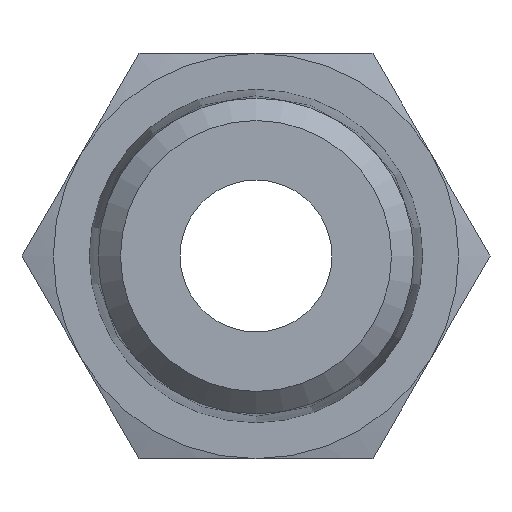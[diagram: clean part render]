
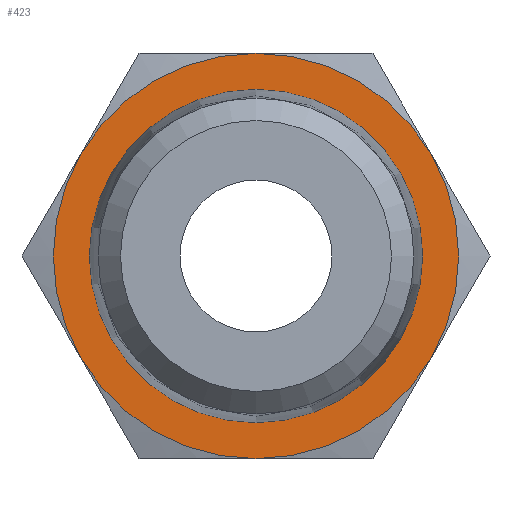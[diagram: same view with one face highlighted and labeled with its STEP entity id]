
A CAD part, left-side view. The second image highlights one B-rep face of the part: STEP entity #423.
In plain terms, the highlighted planar face has unit normal (-1, 0, 0).
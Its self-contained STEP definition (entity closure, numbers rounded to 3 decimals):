
#38=PLANE('',#485);
#47=CIRCLE('',#453,8.);
#48=CIRCLE('',#455,8.);
#49=CIRCLE('',#457,8.);
#50=CIRCLE('',#459,8.);
#51=CIRCLE('',#461,8.);
#52=CIRCLE('',#463,8.);
#63=CIRCLE('',#484,6.579);
#116=ORIENTED_EDGE('',*,*,#186,.F.);
#117=ORIENTED_EDGE('',*,*,#193,.F.);
#118=ORIENTED_EDGE('',*,*,#199,.F.);
#119=ORIENTED_EDGE('',*,*,#195,.F.);
#120=ORIENTED_EDGE('',*,*,#189,.F.);
#121=ORIENTED_EDGE('',*,*,#183,.F.);
#122=ORIENTED_EDGE('',*,*,#222,.T.);
#183=EDGE_CURVE('',#237,#239,#47,.T.);
#186=EDGE_CURVE('',#240,#237,#48,.T.);
#189=EDGE_CURVE('',#239,#243,#49,.T.);
#193=EDGE_CURVE('',#245,#240,#50,.T.);
#195=EDGE_CURVE('',#243,#247,#51,.T.);
#199=EDGE_CURVE('',#247,#245,#52,.T.);
#222=EDGE_CURVE('',#265,#265,#63,.T.);
#237=VERTEX_POINT('',#637);
#239=VERTEX_POINT('',#640);
#240=VERTEX_POINT('',#650);
#243=VERTEX_POINT('',#664);
#245=VERTEX_POINT('',#679);
#247=VERTEX_POINT('',#688);
#265=VERTEX_POINT('',#789);
#318=EDGE_LOOP('',(#116,#117,#118,#119,#120,#121));
#319=EDGE_LOOP('',(#122));
#364=FACE_BOUND('',#318,.T.);
#365=FACE_BOUND('',#319,.T.);
#423=ADVANCED_FACE('',(#364,#365),#38,.F.);
#453=AXIS2_PLACEMENT_3D('',#639,#513,#514);
#455=AXIS2_PLACEMENT_3D('',#652,#517,#518);
#457=AXIS2_PLACEMENT_3D('',#663,#521,#522);
#459=AXIS2_PLACEMENT_3D('',#680,#525,#526);
#461=AXIS2_PLACEMENT_3D('',#687,#529,#530);
#463=AXIS2_PLACEMENT_3D('',#703,#533,#534);
#484=AXIS2_PLACEMENT_3D('',#788,#575,#576);
#485=AXIS2_PLACEMENT_3D('',#790,#577,#578);
#513=DIRECTION('',(1.,0.,0.));
#514=DIRECTION('',(0.,0.,-1.));
#517=DIRECTION('',(1.,0.,0.));
#518=DIRECTION('',(0.,0.,-1.));
#521=DIRECTION('',(1.,0.,0.));
#522=DIRECTION('',(0.,0.,-1.));
#525=DIRECTION('',(1.,0.,0.));
#526=DIRECTION('',(0.,0.,-1.));
#529=DIRECTION('',(1.,0.,0.));
#530=DIRECTION('',(0.,0.,-1.));
#533=DIRECTION('',(1.,0.,0.));
#534=DIRECTION('',(0.,0.,-1.));
#575=DIRECTION('',(1.,0.,0.));
#576=DIRECTION('',(0.,0.,-1.));
#577=DIRECTION('',(1.,0.,0.));
#578=DIRECTION('',(0.,0.,-1.));
#637=CARTESIAN_POINT('',(13.912,6.928,4.));
#639=CARTESIAN_POINT('',(13.912,0.,0.));
#640=CARTESIAN_POINT('',(13.912,0.,8.));
#650=CARTESIAN_POINT('',(13.912,6.928,-4.));
#652=CARTESIAN_POINT('',(13.912,0.,0.));
#663=CARTESIAN_POINT('',(13.912,0.,0.));
#664=CARTESIAN_POINT('',(13.912,-6.928,4.));
#679=CARTESIAN_POINT('',(13.912,0.,-8.));
#680=CARTESIAN_POINT('',(13.912,0.,0.));
#687=CARTESIAN_POINT('',(13.912,0.,0.));
#688=CARTESIAN_POINT('',(13.912,-6.928,-4.));
#703=CARTESIAN_POINT('',(13.912,0.,0.));
#788=CARTESIAN_POINT('',(13.912,0.,0.));
#789=CARTESIAN_POINT('',(13.912,0.,-6.579));
#790=CARTESIAN_POINT('',(13.912,6.579,0.));
